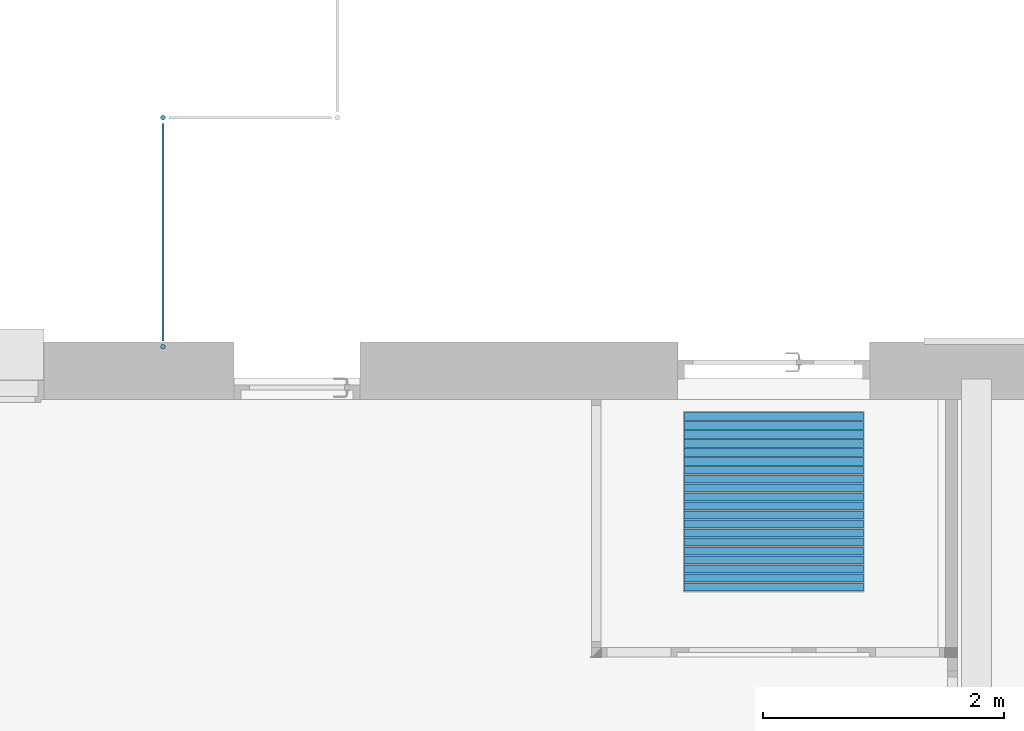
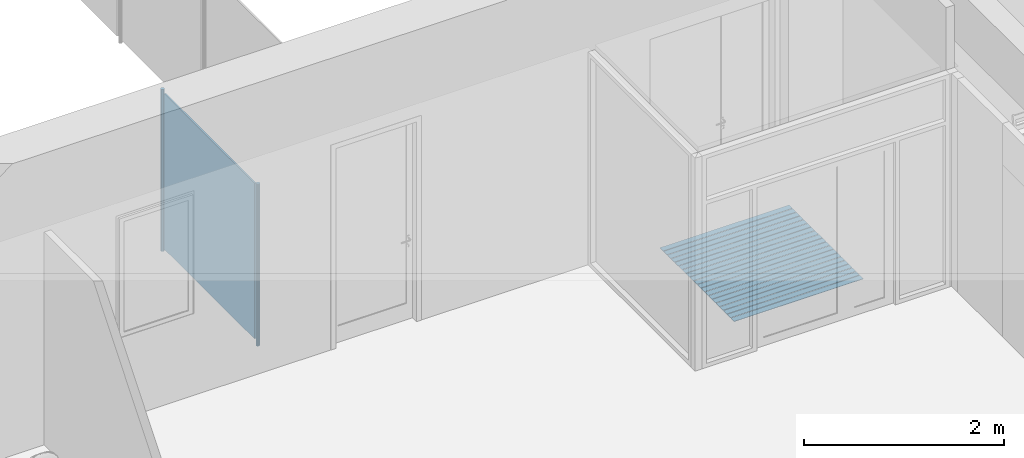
# One storey, part 60 of 91: 4 building element parts, 2 elements without a shape of their own.
"""IFC2X3 building model written with IfcOpenShell, lengths in metres."""

from ifc_helpers import new_model, entity, si_unit, converted_unit, derived_unit, money_unit, direction, frame, origin_with_axes, place, context, subcontext, project, spatial, faceted_brep, material, type_object, element, aggregate, save


model = new_model("IFC2X3")

# Units and contexts
model_context = context("Model", 3, precision=1e-05, world=origin_with_axes(), true_north=direction((0.0, 1.0)))
body_context = subcontext(model_context, "Body", "Model", "MODEL_VIEW")
ifc_project = project(units=[si_unit("LENGTHUNIT", "METRE"), si_unit("AREAUNIT", "SQUARE_METRE"), si_unit("VOLUMEUNIT", "CUBIC_METRE"), converted_unit("PLANEANGLEUNIT", "DEGREE", entity("IfcPlaneAngleMeasure", 0.0174532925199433), si_unit("PLANEANGLEUNIT", "RADIAN"), dimensions=[0, 0, 0, 0, 0, 0, 0]), money_unit("EUR"), converted_unit("TIMEUNIT", "Year", entity("IfcTimeMeasure", 31557600.0), si_unit("TIMEUNIT", "SECOND"), dimensions=[0, 0, 1, 0, 0, 0, 0]), si_unit("MASSUNIT", "GRAM", prefix="KILO"), si_unit("THERMODYNAMICTEMPERATUREUNIT", "DEGREE_CELSIUS"), si_unit("LUMINOUSINTENSITYUNIT", "LUMEN"), si_unit("ENERGYUNIT", "JOULE", prefix="MEGA"), derived_unit("THERMALCONDUCTANCEUNIT", [(si_unit("POWERUNIT", "WATT"), 1), (si_unit("LENGTHUNIT", "METRE"), -1), (si_unit("THERMODYNAMICTEMPERATUREUNIT", "KELVIN"), -1)]), derived_unit("SPECIFICHEATCAPACITYUNIT", [(si_unit("ENERGYUNIT", "JOULE"), 1), (si_unit("MASSUNIT", "GRAM", prefix="KILO"), -1), (si_unit("THERMODYNAMICTEMPERATUREUNIT", "KELVIN"), -1)]), derived_unit("MASSDENSITYUNIT", [(si_unit("MASSUNIT", "GRAM", prefix="KILO"), 1), (si_unit("VOLUMEUNIT", "CUBIC_METRE"), -1)])], contexts=[model_context])

# Site, building, storey
site_placement = place(None, origin_with_axes())
site = spatial("IfcSite", under=ifc_project, at=site_placement, Name="Site", CompositionType="ELEMENT")
building_placement = place(site_placement, origin_with_axes())
building = spatial("IfcBuilding", under=site, at=building_placement, Name="Bâtiment", CompositionType="ELEMENT")
storey_placement = place(building_placement, origin_with_axes())
storey = spatial("IfcBuildingStorey", under=building, at=storey_placement, Name="RDC", CompositionType="ELEMENT", Elevation=0.0)

# Proxy, building element part
building_element_proxy_type_1 = type_object("IfcBuildingElementProxyType", Name="TAPIS ENCASTRÉ", PredefinedType="NOTDEFINED")
proxy_1_placement = place(storey_placement, frame((51.90999999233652, -12.85756213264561, 0.0), z_axis=(0.0, 0.0, 1.0), x_axis=(1.0, 0.0, 0.0)))
proxy_1 = element("IfcBuildingElementProxy", 1, at=proxy_1_placement, inside=storey, type_object=building_element_proxy_type_1, Name="LAVABO")
ifc_material_1 = material(Name="Finition int - Stratifié")
building_element_part_1_placement = place(proxy_1_placement, origin_with_axes())
building_element_part_1 = element("IfcBuildingElementPart", 2, at=building_element_part_1_placement, material=ifc_material_1, Name="Finition int - Stratifié", context=body_context, shape_type="Brep", body=[
    faceted_brep([(0.003731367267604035, 1.492537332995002, 0.0), (0.003731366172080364, 1.425373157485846, 0.0), (0.003731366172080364, 1.425373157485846, 0.005), (0.003731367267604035, 1.492537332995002, 0.005), (1.496268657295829, 1.492537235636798, 0.0), (1.496268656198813, 1.425373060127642, 0.0), (1.496268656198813, 1.425373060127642, 0.005), (1.496268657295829, 1.492537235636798, 0.005)], [[[0, 1, 2, 3]], [[0, 4, 5, 1]], [[1, 5, 6, 2]], [[3, 2, 6, 7]], [[4, 0, 3, 7]], [[5, 4, 7, 6]]]),
    faceted_brep([(0.003731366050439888, 1.417910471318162, 0.0), (0.003731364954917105, 1.350746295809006, 0.0), (0.003731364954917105, 1.350746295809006, 0.005), (0.003731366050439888, 1.417910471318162, 0.005), (1.49626865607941, 1.417910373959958, 0.0), (1.496268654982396, 1.350746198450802, 0.0), (1.496268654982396, 1.350746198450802, 0.005), (1.49626865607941, 1.417910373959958, 0.005)], [[[0, 1, 2, 3]], [[0, 4, 5, 1]], [[1, 5, 6, 2]], [[3, 2, 6, 7]], [[4, 0, 3, 7]], [[5, 4, 7, 6]]]),
    faceted_brep([(0.003731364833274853, 1.343283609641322, 0.0), (0.003731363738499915, 1.276119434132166, 0.0), (0.003731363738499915, 1.276119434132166, 0.005), (0.003731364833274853, 1.343283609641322, 0.005), (1.496268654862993, 1.343283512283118, 0.0), (1.496268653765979, 1.276119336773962, 0.0), (1.496268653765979, 1.276119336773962, 0.005), (1.496268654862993, 1.343283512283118, 0.005)], [[[0, 1, 2, 3]], [[0, 4, 5, 1]], [[1, 5, 6, 2]], [[3, 2, 6, 7]], [[4, 0, 3, 7]], [[5, 4, 7, 6]]]),
    faceted_brep([(0.003731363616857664, 1.268656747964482, 0.0), (0.00373136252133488, 1.201492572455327, 0.0), (0.00373136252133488, 1.201492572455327, 0.005), (0.003731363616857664, 1.268656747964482, 0.005), (1.496268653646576, 1.268656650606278, 0.0), (1.49626865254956, 1.201492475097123, 0.0), (1.49626865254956, 1.201492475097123, 0.005), (1.496268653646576, 1.268656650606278, 0.005)], [[[0, 1, 2, 3]], [[0, 4, 5, 1]], [[1, 5, 6, 2]], [[3, 2, 6, 7]], [[4, 0, 3, 7]], [[5, 4, 7, 6]]]),
    faceted_brep([(0.003731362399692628, 1.194029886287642, 0.0), (0.003731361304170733, 1.126865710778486, 0.0), (0.003731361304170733, 1.126865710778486, 0.005), (0.003731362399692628, 1.194029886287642, 0.005), (1.496268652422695, 1.194029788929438, 0.0), (1.496268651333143, 1.126865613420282, 0.0), (1.496268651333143, 1.126865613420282, 0.005), (1.496268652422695, 1.194029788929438, 0.005)], [[[0, 1, 2, 3]], [[0, 4, 5, 1]], [[1, 5, 6, 2]], [[3, 2, 6, 7]], [[4, 0, 3, 7]], [[5, 4, 7, 6]]]),
    faceted_brep([(0.003731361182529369, 1.119403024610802, 0.0), (0.003731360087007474, 1.052238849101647, 0.0), (0.003731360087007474, 1.052238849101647, 0.005), (0.003731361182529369, 1.119403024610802, 0.005), (1.496268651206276, 1.119402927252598, 0.0), (1.496268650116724, 1.052238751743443, 0.0), (1.496268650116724, 1.052238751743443, 0.005), (1.496268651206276, 1.119402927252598, 0.005)], [[[0, 1, 2, 3]], [[0, 4, 5, 1]], [[1, 5, 6, 2]], [[3, 2, 6, 7]], [[4, 0, 3, 7]], [[5, 4, 7, 6]]]),
    faceted_brep([(0.003731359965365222, 1.044776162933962, 0.0), (0.003731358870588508, 0.9776119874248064, 0.0), (0.003731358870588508, 0.9776119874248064, 0.005), (0.003731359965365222, 1.044776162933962, 0.005), (1.496268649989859, 1.044776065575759, 0.0), (1.496268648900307, 0.9776118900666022, 0.0), (1.496268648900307, 0.9776118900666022, 0.005), (1.496268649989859, 1.044776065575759, 0.005)], [[[0, 1, 2, 3]], [[0, 4, 5, 1]], [[1, 5, 6, 2]], [[3, 2, 6, 7]], [[4, 0, 3, 7]], [[5, 4, 7, 6]]]),
    faceted_brep([(0.003731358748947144, 0.9701493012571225, 0.0), (0.003731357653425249, 0.9029851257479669, 0.0), (0.003731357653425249, 0.9029851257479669, 0.005), (0.003731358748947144, 0.9701493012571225, 0.005), (1.49626864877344, 0.9701492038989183, 0.0), (1.496268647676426, 0.9029850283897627, 0.0), (1.496268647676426, 0.9029850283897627, 0.005), (1.49626864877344, 0.9701492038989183, 0.005)], [[[0, 1, 2, 3]], [[0, 4, 5, 1]], [[1, 5, 6, 2]], [[3, 2, 6, 7]], [[4, 0, 3, 7]], [[5, 4, 7, 6]]]),
    faceted_brep([(0.003731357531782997, 0.895522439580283, 0.0), (0.003731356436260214, 0.8283582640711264, 0.0), (0.003731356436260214, 0.8283582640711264, 0.005), (0.003731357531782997, 0.895522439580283, 0.005), (1.496268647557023, 0.8955223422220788, 0.0), (1.496268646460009, 0.8283581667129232, 0.0), (1.496268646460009, 0.8283581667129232, 0.005), (1.496268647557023, 0.8955223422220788, 0.005)], [[[0, 1, 2, 3]], [[0, 4, 5, 1]], [[1, 5, 6, 2]], [[3, 2, 6, 7]], [[4, 0, 3, 7]], [[5, 4, 7, 6]]]),
    faceted_brep([(0.003731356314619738, 0.8208955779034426, 0.0), (0.003731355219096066, 0.7537314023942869, 0.0), (0.003731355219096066, 0.7537314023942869, 0.005), (0.003731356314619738, 0.8208955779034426, 0.005), (1.496268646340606, 0.8208954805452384, 0.0), (1.49626864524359, 0.7537313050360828, 0.0), (1.49626864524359, 0.7537313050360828, 0.005), (1.496268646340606, 0.8208954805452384, 0.005)], [[[0, 1, 2, 3]], [[0, 4, 5, 1]], [[1, 5, 6, 2]], [[3, 2, 6, 7]], [[4, 0, 3, 7]], [[5, 4, 7, 6]]]),
    faceted_brep([(0.003731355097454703, 0.7462687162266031, 0.0), (0.003731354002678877, 0.6791045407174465, 0.0), (0.003731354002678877, 0.6791045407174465, 0.005), (0.003731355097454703, 0.7462687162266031, 0.005), (1.496268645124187, 0.7462686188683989, 0.0), (1.496268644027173, 0.6791044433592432, 0.0), (1.496268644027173, 0.6791044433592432, 0.005), (1.496268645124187, 0.7462686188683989, 0.005)], [[[0, 1, 2, 3]], [[0, 4, 5, 1]], [[1, 5, 6, 2]], [[3, 2, 6, 7]], [[4, 0, 3, 7]], [[5, 4, 7, 6]]]),
    faceted_brep([(0.003731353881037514, 0.6716418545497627, 0.0), (0.003731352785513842, 0.604477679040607, 0.0), (0.003731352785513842, 0.604477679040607, 0.005), (0.003731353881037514, 0.6716418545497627, 0.005), (1.496268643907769, 0.6716417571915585, 0.0), (1.496268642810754, 0.6044775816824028, 0.0), (1.496268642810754, 0.6044775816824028, 0.005), (1.496268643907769, 0.6716417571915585, 0.005)], [[[0, 1, 2, 3]], [[0, 4, 5, 1]], [[1, 5, 6, 2]], [[3, 2, 6, 7]], [[4, 0, 3, 7]], [[5, 4, 7, 6]]]),
    faceted_brep([(0.003731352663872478, 0.5970149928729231, 0.0), (0.003731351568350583, 0.5298508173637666, 0.0), (0.003731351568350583, 0.5298508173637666, 0.005), (0.003731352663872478, 0.5970149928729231, 0.005), (1.496268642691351, 0.597014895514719, 0.0), (1.496268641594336, 0.5298507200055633, 0.0), (1.496268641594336, 0.5298507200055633, 0.005), (1.496268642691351, 0.597014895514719, 0.005)], [[[0, 1, 2, 3]], [[0, 4, 5, 1]], [[1, 5, 6, 2]], [[3, 2, 6, 7]], [[4, 0, 3, 7]], [[5, 4, 7, 6]]]),
    faceted_brep([(0.003731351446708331, 0.5223881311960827, 0.0), (0.003731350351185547, 0.4552239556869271, 0.0), (0.003731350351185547, 0.4552239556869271, 0.005), (0.003731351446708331, 0.5223881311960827, 0.005), (1.496268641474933, 0.5223880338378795, 0.0), (1.496268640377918, 0.4552238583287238, 0.0), (1.496268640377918, 0.4552238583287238, 0.005), (1.496268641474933, 0.5223880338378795, 0.005)], [[[0, 1, 2, 3]], [[0, 4, 5, 1]], [[1, 5, 6, 2]], [[3, 2, 6, 7]], [[4, 0, 3, 7]], [[5, 4, 7, 6]]]),
    faceted_brep([(0.003731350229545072, 0.4477612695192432, 0.0), (0.003731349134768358, 0.3805970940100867, 0.0), (0.003731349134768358, 0.3805970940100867, 0.005), (0.003731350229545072, 0.4477612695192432, 0.005), (1.496268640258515, 0.4477611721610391, 0.0), (1.4962686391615, 0.3805969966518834, 0.0), (1.4962686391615, 0.3805969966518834, 0.005), (1.496268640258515, 0.4477611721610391, 0.005)], [[[0, 1, 2, 3]], [[0, 4, 5, 1]], [[1, 5, 6, 2]], [[3, 2, 6, 7]], [[4, 0, 3, 7]], [[5, 4, 7, 6]]]),
    faceted_brep([(0.003731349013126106, 0.3731344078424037, 0.0), (0.003731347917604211, 0.3059702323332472, 0.0), (0.003731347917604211, 0.3059702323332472, 0.005), (0.003731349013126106, 0.3731344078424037, 0.005), (1.496268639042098, 0.3731343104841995, 0.0), (1.496268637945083, 0.3059701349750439, 0.0), (1.496268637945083, 0.3059701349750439, 0.005), (1.496268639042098, 0.3731343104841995, 0.005)], [[[0, 1, 2, 3]], [[0, 4, 5, 1]], [[1, 5, 6, 2]], [[3, 2, 6, 7]], [[4, 0, 3, 7]], [[5, 4, 7, 6]]]),
    faceted_brep([(0.003731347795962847, 0.2985075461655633, 0.0), (0.003731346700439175, 0.2313433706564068, 0.0), (0.003731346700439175, 0.2313433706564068, 0.005), (0.003731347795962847, 0.2985075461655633, 0.005), (1.49626863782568, 0.2985074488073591, 0.0), (1.496268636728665, 0.2313432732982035, 0.0), (1.496268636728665, 0.2313432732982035, 0.005), (1.49626863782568, 0.2985074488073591, 0.005)], [[[0, 1, 2, 3]], [[0, 4, 5, 1]], [[1, 5, 6, 2]], [[3, 2, 6, 7]], [[4, 0, 3, 7]], [[5, 4, 7, 6]]]),
    faceted_brep([(0.003731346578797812, 0.2238806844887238, 0.0), (0.003731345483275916, 0.1567165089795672, 0.0), (0.003731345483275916, 0.1567165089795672, 0.005), (0.003731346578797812, 0.2238806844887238, 0.005), (1.496268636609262, 0.2238805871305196, 0.0), (1.496268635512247, 0.156716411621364, 0.0), (1.496268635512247, 0.156716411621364, 0.005), (1.496268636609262, 0.2238805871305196, 0.005)], [[[0, 1, 2, 3]], [[0, 4, 5, 1]], [[1, 5, 6, 2]], [[3, 2, 6, 7]], [[4, 0, 3, 7]], [[5, 4, 7, 6]]]),
    faceted_brep([(0.003731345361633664, 0.1492538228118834, 0.0), (0.003731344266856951, 0.08208964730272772, 0.0), (0.003731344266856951, 0.08208964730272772, 0.005), (0.003731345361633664, 0.1492538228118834, 0.005), (1.496268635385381, 0.1492537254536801, 0.0), (1.496268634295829, 0.08208954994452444, 0.0), (1.496268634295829, 0.08208954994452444, 0.005), (1.496268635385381, 0.1492537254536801, 0.005)], [[[0, 1, 2, 3]], [[0, 4, 5, 1]], [[1, 5, 6, 2]], [[3, 2, 6, 7]], [[4, 0, 3, 7]], [[5, 4, 7, 6]]]),
    faceted_brep([(0.003731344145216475, 0.07462696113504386, 0.0), (0.003731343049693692, 0.007462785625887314, 0.0), (0.003731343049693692, 0.007462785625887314, 0.005), (0.003731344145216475, 0.07462696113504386, 0.005), (1.496268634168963, 0.07462686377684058, 0.0), (1.496268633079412, 0.007462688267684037, 0.0), (1.496268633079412, 0.007462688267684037, 0.005), (1.496268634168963, 0.07462686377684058, 0.005)], [[[0, 1, 2, 3]], [[0, 4, 5, 1]], [[1, 5, 6, 2]], [[3, 2, 6, 7]], [[4, 0, 3, 7]], [[5, 4, 7, 6]]]),
])
aggregate(proxy_1, [building_element_part_1])

# Proxy, building element parts
building_element_proxy_type_2 = type_object("IfcBuildingElementProxyType", Name="Type de garde-corps", PredefinedType="NOTDEFINED")
proxy_2_placement = place(storey_placement, frame((49.08370675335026, -3.835963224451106, 0.0), z_axis=(0.0, 0.0, 1.0), x_axis=(1.0, 0.0, 0.0)))
proxy_2 = element("IfcBuildingElementProxy", 3, at=proxy_2_placement, inside=storey, type_object=building_element_proxy_type_2, Name="RAMPE-003")
ifc_material_2 = material(Name="Métal - Zinc")
building_element_part_2_placement = place(proxy_2_placement, origin_with_axes())
building_element_part_2 = element("IfcBuildingElementPart", 4, at=building_element_part_2_placement, material=ifc_material_2, Name="Métal - Zinc", context=body_context, shape_type="Brep", body=[
    faceted_brep([(-1.479999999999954, -5.079110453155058, 0.0), (-1.480303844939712, -5.07563748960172, 0.0), (-1.480303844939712, -5.07563748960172, 1.98), (-1.479999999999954, -5.079110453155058, 1.98), (-1.480303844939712, -5.082583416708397, 0.0), (-1.481206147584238, -5.085950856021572, 0.0), (-1.482679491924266, -5.089110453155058, 0.0), (-1.484679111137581, -5.09196620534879, 0.0), (-1.487144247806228, -5.094431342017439, 0.0), (-1.489999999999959, -5.096430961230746, 0.0), (-1.493159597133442, -5.097904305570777, 0.0), (-1.496527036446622, -5.098806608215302, 0.0), (-1.499999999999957, -5.099110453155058, 0.0), (-1.503472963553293, -5.098806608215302, 0.0), (-1.506840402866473, -5.097904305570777, 0.0), (-1.509999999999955, -5.096430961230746, 0.0), (-1.512855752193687, -5.094431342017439, 0.0), (-1.515320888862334, -5.09196620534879, 0.0), (-1.517320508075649, -5.089110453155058, 0.0), (-1.518793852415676, -5.085950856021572, 0.0), (-1.519696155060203, -5.082583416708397, 0.0), (-1.51999999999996, -5.079110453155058, 0.0), (-1.519696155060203, -5.07563748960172, 0.0), (-1.518793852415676, -5.072270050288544, 0.0), (-1.517320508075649, -5.069110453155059, 0.0), (-1.515320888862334, -5.066254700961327, 0.0), (-1.512855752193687, -5.063789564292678, 0.0), (-1.509999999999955, -5.06178994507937, 0.0), (-1.506840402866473, -5.060316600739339, 0.0), (-1.503472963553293, -5.059414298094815, 0.0), (-1.499999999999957, -5.059110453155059, 0.0), (-1.496527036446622, -5.059414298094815, 0.0), (-1.493159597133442, -5.060316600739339, 0.0), (-1.489999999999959, -5.06178994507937, 0.0), (-1.487144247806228, -5.063789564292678, 0.0), (-1.484679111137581, -5.066254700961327, 0.0), (-1.482679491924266, -5.069110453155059, 0.0), (-1.481206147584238, -5.072270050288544, 0.0), (-1.481206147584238, -5.072270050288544, 1.98), (-1.482679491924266, -5.069110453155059, 1.98), (-1.484679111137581, -5.066254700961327, 1.98), (-1.487144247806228, -5.063789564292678, 1.98), (-1.489999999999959, -5.06178994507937, 1.98), (-1.493159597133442, -5.060316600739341, 1.98), (-1.496527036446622, -5.059414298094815, 1.98), (-1.499999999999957, -5.059110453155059, 1.98), (-1.503472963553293, -5.059414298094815, 1.98), (-1.506840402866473, -5.060316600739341, 1.98), (-1.509999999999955, -5.06178994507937, 1.98), (-1.512855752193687, -5.063789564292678, 1.98), (-1.515320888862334, -5.066254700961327, 1.98), (-1.517320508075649, -5.069110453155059, 1.98), (-1.518793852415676, -5.072270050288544, 1.98), (-1.519696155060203, -5.07563748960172, 1.98), (-1.51999999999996, -5.079110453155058, 1.98), (-1.519696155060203, -5.082583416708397, 1.98), (-1.518793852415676, -5.085950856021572, 1.98), (-1.517320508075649, -5.089110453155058, 1.98), (-1.515320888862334, -5.09196620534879, 1.98), (-1.512855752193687, -5.094431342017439, 1.98), (-1.509999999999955, -5.096430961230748, 1.98), (-1.506840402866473, -5.097904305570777, 1.98), (-1.503472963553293, -5.098806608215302, 1.98), (-1.499999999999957, -5.099110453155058, 1.98), (-1.496527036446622, -5.098806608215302, 1.98), (-1.493159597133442, -5.097904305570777, 1.98), (-1.489999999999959, -5.096430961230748, 1.98), (-1.487144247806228, -5.094431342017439, 1.98), (-1.484679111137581, -5.09196620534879, 1.98), (-1.482679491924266, -5.089110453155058, 1.98), (-1.481206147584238, -5.085950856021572, 1.98), (-1.480303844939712, -5.082583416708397, 1.98)], [[[0, 1, 2, 3]], [[0, 4, 5, 6, 7, 8, 9, 10, 11, 12, 13, 14, 15, 16, 17, 18, 19, 20, 21, 22, 23, 24, 25, 26, 27, 28, 29, 30, 31, 32, 33, 34, 35, 36, 37, 1]], [[1, 37, 38, 2]], [[3, 2, 38, 39, 40, 41, 42, 43, 44, 45, 46, 47, 48, 49, 50, 51, 52, 53, 54, 55, 56, 57, 58, 59, 60, 61, 62, 63, 64, 65, 66, 67, 68, 69, 70, 71]], [[4, 0, 3, 71]], [[5, 4, 71, 70]], [[6, 5, 70, 69]], [[7, 6, 69, 68]], [[8, 7, 68, 67]], [[9, 8, 67, 66]], [[10, 9, 66, 65]], [[11, 10, 65, 64]], [[12, 11, 64, 63]], [[13, 12, 63, 62]], [[14, 13, 62, 61]], [[15, 14, 61, 60]], [[16, 15, 60, 59]], [[17, 16, 59, 58]], [[18, 17, 58, 57]], [[19, 18, 57, 56]], [[20, 19, 56, 55]], [[21, 20, 55, 54]], [[22, 21, 54, 53]], [[23, 22, 53, 52]], [[24, 23, 52, 51]], [[25, 24, 51, 50]], [[26, 25, 50, 49]], [[27, 26, 49, 48]], [[28, 27, 48, 47]], [[29, 28, 47, 46]], [[30, 29, 46, 45]], [[31, 30, 45, 44]], [[32, 31, 44, 43]], [[33, 32, 43, 42]], [[34, 33, 42, 41]], [[35, 34, 41, 40]], [[36, 35, 40, 39]], [[37, 36, 39, 38]]]),
])
building_element_part_3_placement = place(proxy_2_placement, origin_with_axes())
building_element_part_3 = element("IfcBuildingElementPart", 5, at=building_element_part_3_placement, material=ifc_material_2, Name="Métal - Zinc", context=body_context, shape_type="Brep", body=[
    faceted_brep([(-1.499999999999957, -6.96459890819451, 0.0), (-1.503472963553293, -6.964902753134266, 0.0), (-1.503472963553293, -6.964902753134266, 1.98), (-1.499999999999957, -6.96459890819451, 1.98), (-1.496527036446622, -6.964902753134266, 0.0), (-1.493159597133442, -6.965805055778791, 0.0), (-1.489999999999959, -6.967278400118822, 0.0), (-1.487144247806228, -6.96927801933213, 0.0), (-1.484679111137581, -6.971743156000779, 0.0), (-1.482679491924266, -6.97459890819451, 0.0), (-1.481206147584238, -6.977758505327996, 0.0), (-1.480303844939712, -6.981125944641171, 0.0), (-1.479999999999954, -6.98459890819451, 0.0), (-1.480303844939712, -6.988071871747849, 0.0), (-1.481206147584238, -6.991439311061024, 0.0), (-1.482679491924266, -6.99459890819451, 0.0), (-1.484679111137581, -6.997454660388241, 0.0), (-1.487144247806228, -6.99991979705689, 0.0), (-1.489999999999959, -7.001919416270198, 0.0), (-1.493159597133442, -7.003392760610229, 0.0), (-1.496527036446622, -7.004295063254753, 0.0), (-1.499999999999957, -7.004598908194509, 0.0), (-1.503472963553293, -7.004295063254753, 0.0), (-1.506840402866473, -7.003392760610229, 0.0), (-1.509999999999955, -7.001919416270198, 0.0), (-1.512855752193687, -6.99991979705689, 0.0), (-1.515320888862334, -6.997454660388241, 0.0), (-1.517320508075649, -6.99459890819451, 0.0), (-1.518793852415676, -6.991439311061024, 0.0), (-1.519696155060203, -6.988071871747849, 0.0), (-1.51999999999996, -6.98459890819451, 0.0), (-1.519696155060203, -6.981125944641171, 0.0), (-1.518793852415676, -6.977758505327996, 0.0), (-1.517320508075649, -6.97459890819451, 0.0), (-1.515320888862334, -6.971743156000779, 0.0), (-1.512855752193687, -6.96927801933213, 0.0), (-1.509999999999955, -6.967278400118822, 0.0), (-1.506840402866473, -6.965805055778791, 0.0), (-1.506840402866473, -6.965805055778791, 1.98), (-1.509999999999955, -6.967278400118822, 1.98), (-1.512855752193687, -6.96927801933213, 1.98), (-1.515320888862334, -6.971743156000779, 1.98), (-1.517320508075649, -6.97459890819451, 1.98), (-1.518793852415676, -6.977758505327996, 1.98), (-1.519696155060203, -6.981125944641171, 1.98), (-1.51999999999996, -6.98459890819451, 1.98), (-1.519696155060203, -6.988071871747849, 1.98), (-1.518793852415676, -6.991439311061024, 1.98), (-1.517320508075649, -6.99459890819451, 1.98), (-1.515320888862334, -6.997454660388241, 1.98), (-1.512855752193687, -6.99991979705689, 1.98), (-1.509999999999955, -7.001919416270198, 1.98), (-1.506840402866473, -7.003392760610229, 1.98), (-1.503472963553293, -7.004295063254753, 1.98), (-1.499999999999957, -7.004598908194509, 1.98), (-1.496527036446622, -7.004295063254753, 1.98), (-1.493159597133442, -7.003392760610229, 1.98), (-1.489999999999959, -7.001919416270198, 1.98), (-1.487144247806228, -6.99991979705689, 1.98), (-1.484679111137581, -6.997454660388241, 1.98), (-1.482679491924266, -6.99459890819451, 1.98), (-1.481206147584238, -6.991439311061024, 1.98), (-1.480303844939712, -6.988071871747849, 1.98), (-1.479999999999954, -6.98459890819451, 1.98), (-1.480303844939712, -6.981125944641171, 1.98), (-1.481206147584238, -6.977758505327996, 1.98), (-1.482679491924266, -6.97459890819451, 1.98), (-1.484679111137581, -6.971743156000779, 1.98), (-1.487144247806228, -6.96927801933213, 1.98), (-1.489999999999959, -6.967278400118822, 1.98), (-1.493159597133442, -6.965805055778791, 1.98), (-1.496527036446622, -6.964902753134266, 1.98)], [[[0, 1, 2, 3]], [[0, 4, 5, 6, 7, 8, 9, 10, 11, 12, 13, 14, 15, 16, 17, 18, 19, 20, 21, 22, 23, 24, 25, 26, 27, 28, 29, 30, 31, 32, 33, 34, 35, 36, 37, 1]], [[1, 37, 38, 2]], [[3, 2, 38, 39, 40, 41, 42, 43, 44, 45, 46, 47, 48, 49, 50, 51, 52, 53, 54, 55, 56, 57, 58, 59, 60, 61, 62, 63, 64, 65, 66, 67, 68, 69, 70, 71]], [[4, 0, 3, 71]], [[5, 4, 71, 70]], [[6, 5, 70, 69]], [[7, 6, 69, 68]], [[8, 7, 68, 67]], [[9, 8, 67, 66]], [[10, 9, 66, 65]], [[11, 10, 65, 64]], [[12, 11, 64, 63]], [[13, 12, 63, 62]], [[14, 13, 62, 61]], [[15, 14, 61, 60]], [[16, 15, 60, 59]], [[17, 16, 59, 58]], [[18, 17, 58, 57]], [[19, 18, 57, 56]], [[20, 19, 56, 55]], [[21, 20, 55, 54]], [[22, 21, 54, 53]], [[23, 22, 53, 52]], [[24, 23, 52, 51]], [[25, 24, 51, 50]], [[26, 25, 50, 49]], [[27, 26, 49, 48]], [[28, 27, 48, 47]], [[29, 28, 47, 46]], [[30, 29, 46, 45]], [[31, 30, 45, 44]], [[32, 31, 44, 43]], [[33, 32, 43, 42]], [[34, 33, 42, 41]], [[35, 34, 41, 40]], [[36, 35, 40, 39]], [[37, 36, 39, 38]]]),
])
ifc_material_3 = material(Name="*MAILLE jacob")
building_element_part_4_placement = place(proxy_2_placement, origin_with_axes())
building_element_part_4 = element("IfcBuildingElementPart", 6, at=building_element_part_4_placement, material=ifc_material_3, Name="*MAILLE jacob", context=body_context, shape_type="Brep", body=[
    faceted_brep([(-1.489999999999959, -6.934598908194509, 0.05), (-1.489999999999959, -5.129110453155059, 0.05), (-1.489999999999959, -5.129110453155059, 1.95), (-1.489999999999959, -6.934598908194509, 1.95), (-1.509999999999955, -5.129110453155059, 0.05), (-1.509999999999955, -6.934598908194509, 0.05), (-1.509999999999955, -5.129110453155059, 1.95), (-1.509999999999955, -6.934598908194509, 1.95)], [[[0, 1, 2, 3]], [[4, 1, 0, 5]], [[6, 2, 1, 4]], [[3, 2, 6, 7]], [[0, 3, 7, 5]], [[6, 4, 5, 7]]]),
])
aggregate(proxy_2, [building_element_part_2, building_element_part_3, building_element_part_4])

save(model, "model.ifc")
